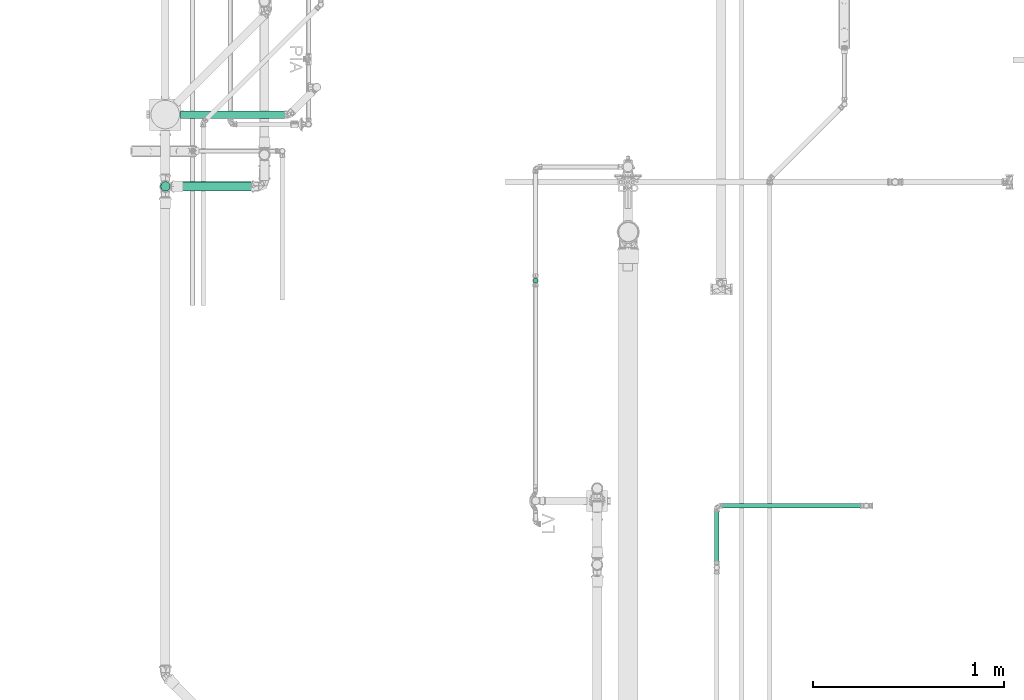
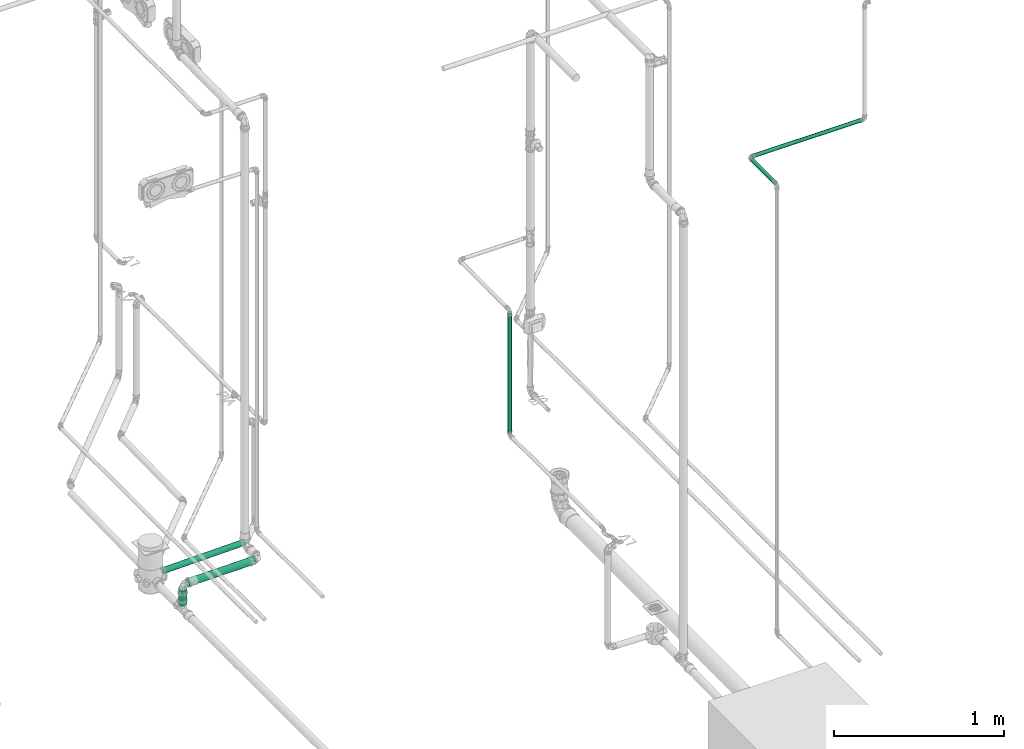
# One storey, part 44 of 589: 6 flow segments.
"""IFC2X3 building model written with IfcOpenShell, lengths in millimetres."""

from ifc_helpers import new_model, entity, si_unit, converted_unit, derived_unit, direction, frame, frame_2d, origin, origin_2d_with_axis, place, context, subcontext, project, spatial, circle, extrude, type_object, element, save


model = new_model("IFC2X3")

# Units and contexts
model_context = context("Model", 3, precision=0.01, world=origin(), true_north=direction((6.123031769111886e-17, 1.0)))
body_context = subcontext(model_context, "Body", "Model", "MODEL_VIEW")
ifc_project = project(units=[si_unit("LENGTHUNIT", "METRE", prefix="MILLI"), si_unit("AREAUNIT", "SQUARE_METRE"), si_unit("VOLUMEUNIT", "CUBIC_METRE"), converted_unit("PLANEANGLEUNIT", "DEGREE", entity("IfcRatioMeasure", 0.017453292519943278), si_unit("PLANEANGLEUNIT", "RADIAN"), dimensions=[0, 0, 0, 0, 0, 0, 0]), si_unit("MASSUNIT", "GRAM", prefix="KILO"), derived_unit("MASSDENSITYUNIT", [(si_unit("MASSUNIT", "GRAM", prefix="KILO"), 1), (si_unit("LENGTHUNIT", "METRE"), -3)]), derived_unit("IONCONCENTRATIONUNIT", [(si_unit("MASSUNIT", "GRAM", prefix="KILO"), 1), (si_unit("LENGTHUNIT", "METRE"), -3)]), derived_unit("MOMENTOFINERTIAUNIT", [(si_unit("LENGTHUNIT", "METRE"), 4)]), si_unit("TIMEUNIT", "SECOND"), si_unit("FREQUENCYUNIT", "HERTZ"), si_unit("THERMODYNAMICTEMPERATUREUNIT", "DEGREE_CELSIUS"), derived_unit("THERMALTRANSMITTANCEUNIT", [(si_unit("MASSUNIT", "GRAM", prefix="KILO"), 1), (si_unit("THERMODYNAMICTEMPERATUREUNIT", "KELVIN"), -1), (si_unit("TIMEUNIT", "SECOND"), -3)]), derived_unit("THERMALCONDUCTANCEUNIT", [(si_unit("MASSUNIT", "GRAM", prefix="KILO"), 1), (si_unit("THERMODYNAMICTEMPERATUREUNIT", "KELVIN"), -1), (si_unit("TIMEUNIT", "SECOND"), -3), (si_unit("LENGTHUNIT", "METRE"), 1)]), derived_unit("VOLUMETRICFLOWRATEUNIT", [(si_unit("LENGTHUNIT", "METRE"), 3), (si_unit("TIMEUNIT", "SECOND"), -1)]), derived_unit("MASSFLOWRATEUNIT", [(si_unit("MASSUNIT", "GRAM", prefix="KILO"), 1), (si_unit("TIMEUNIT", "SECOND"), -1)]), derived_unit("ROTATIONALFREQUENCYUNIT", [(si_unit("TIMEUNIT", "SECOND"), -1)]), si_unit("ELECTRICCURRENTUNIT", "AMPERE"), si_unit("ELECTRICVOLTAGEUNIT", "VOLT"), si_unit("POWERUNIT", "WATT"), si_unit("FORCEUNIT", "NEWTON", prefix="KILO"), si_unit("ILLUMINANCEUNIT", "LUX"), si_unit("LUMINOUSFLUXUNIT", "LUMEN"), si_unit("LUMINOUSINTENSITYUNIT", "CANDELA"), derived_unit("USERDEFINED", [(si_unit("MASSUNIT", "GRAM", prefix="KILO"), -1), (si_unit("LENGTHUNIT", "METRE"), -2), (si_unit("TIMEUNIT", "SECOND"), 3), (si_unit("LUMINOUSFLUXUNIT", "LUMEN"), 1)]), derived_unit("USERDEFINED", [(si_unit("MASSUNIT", "GRAM", prefix="KILO"), 1), (si_unit("TIMEUNIT", "SECOND"), -3), (si_unit("LENGTHUNIT", "METRE"), 3), (si_unit("ELECTRICCURRENTUNIT", "AMPERE"), -2)]), derived_unit("SOUNDPOWERUNIT", [(si_unit("MASSUNIT", "GRAM", prefix="KILO"), 1), (si_unit("TIMEUNIT", "SECOND"), -3), (si_unit("LENGTHUNIT", "METRE"), 2)]), derived_unit("SOUNDPRESSUREUNIT", [(si_unit("MASSUNIT", "GRAM", prefix="KILO"), 1), (si_unit("LENGTHUNIT", "METRE"), -1), (si_unit("TIMEUNIT", "SECOND"), -2)]), derived_unit("LINEARVELOCITYUNIT", [(si_unit("LENGTHUNIT", "METRE"), 1), (si_unit("TIMEUNIT", "SECOND"), -1)]), si_unit("PRESSUREUNIT", "PASCAL"), derived_unit("USERDEFINED", [(si_unit("MASSUNIT", "GRAM", prefix="KILO"), 1), (si_unit("LENGTHUNIT", "METRE"), -2), (si_unit("TIMEUNIT", "SECOND"), -2)]), derived_unit("LINEARFORCEUNIT", [(si_unit("MASSUNIT", "GRAM", prefix="KILO"), 1), (si_unit("TIMEUNIT", "SECOND"), -2)]), derived_unit("PLANARFORCEUNIT", [(si_unit("MASSUNIT", "GRAM", prefix="KILO"), 1), (si_unit("LENGTHUNIT", "METRE"), -1), (si_unit("TIMEUNIT", "SECOND"), -2)]), derived_unit("SPECIFICHEATCAPACITYUNIT", [(si_unit("THERMODYNAMICTEMPERATUREUNIT", "KELVIN"), -1), (si_unit("LENGTHUNIT", "METRE"), 2), (si_unit("TIMEUNIT", "SECOND"), -2)]), derived_unit("HEATINGVALUEUNIT", [(si_unit("LENGTHUNIT", "METRE"), 2), (si_unit("TIMEUNIT", "SECOND"), -2)]), derived_unit("VAPORPERMEABILITYUNIT", [(si_unit("LENGTHUNIT", "METRE"), -1), (si_unit("TIMEUNIT", "SECOND"), 1)]), derived_unit("DYNAMICVISCOSITYUNIT", [(si_unit("MASSUNIT", "GRAM", prefix="KILO"), 1), (si_unit("TIMEUNIT", "SECOND"), -1), (si_unit("LENGTHUNIT", "METRE"), -1)]), derived_unit("THERMALEXPANSIONCOEFFICIENTUNIT", [(si_unit("THERMODYNAMICTEMPERATUREUNIT", "KELVIN"), -1)]), derived_unit("MODULUSOFELASTICITYUNIT", [(si_unit("MASSUNIT", "GRAM", prefix="KILO"), 1), (si_unit("LENGTHUNIT", "METRE"), -1), (si_unit("TIMEUNIT", "SECOND"), -2)]), derived_unit("ISOTHERMALMOISTURECAPACITYUNIT", [(si_unit("LENGTHUNIT", "METRE"), 3), (si_unit("MASSUNIT", "GRAM", prefix="KILO"), -1)]), derived_unit("MOISTUREDIFFUSIVITYUNIT", [(si_unit("TIMEUNIT", "SECOND"), -1), (si_unit("LENGTHUNIT", "METRE"), 2)])], contexts=[model_context])

# Site, building, storey
site_placement = place(None, origin())
site = spatial("IfcSite", under=ifc_project, at=site_placement, Name="Default", CompositionType="ELEMENT")
building_placement = place(site_placement, origin())
building = spatial("IfcBuilding", under=site, at=building_placement, CompositionType="ELEMENT")
storey_placement = place(building_placement, frame((0.0, 0.0, 100.0)))
storey = spatial("IfcBuildingStorey", under=building, at=storey_placement, Name="TÉRREO", CompositionType="ELEMENT", Elevation=100.0)

# Flow segments
pipe_segment_type_1 = type_object("IfcPipeSegmentType", Name="Tipos de tubos:PVC Esgoto Série Normal", PredefinedType="NOTDEFINED")
flow_segment_1_placement = place(storey_placement, origin())
element("IfcFlowSegment", 1, at=flow_segment_1_placement, inside=storey, type_object=pipe_segment_type_1, Name="Tipos de tubos:PVC Esgoto Série Normal", ObjectType="Tipos de tubos:PVC Esgoto Série Normal", context=body_context, shape_type="SweptSolid", body=[
    extrude(circle(Radius=20.0, at=frame_2d((0.0, -3.383283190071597e-14), x_axis=(1.0, 0.0))), frame((-330.4258212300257, -7696.610182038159, -252.9347498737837), z_axis=(0.999800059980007, 0.0, 0.01999600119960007), x_axis=(0.0, -1.0, 0.0)), (0.0, 0.0, 1.0), 560.1345744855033),
])
flow_segment_2_placement = place(storey_placement, origin())
element("IfcFlowSegment", 2, at=flow_segment_2_placement, inside=storey, type_object=pipe_segment_type_1, Name="Tipos de tubos:PVC Esgoto Série Normal", ObjectType="Tipos de tubos:PVC Esgoto Série Normal", context=body_context, shape_type="SweptSolid", body=[
    extrude(circle(Radius=25.0, at=frame_2d((0.0, -2.3263556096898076e-14), x_axis=(1.0, 0.0))), frame((-378.1234355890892, -8073.302592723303, -93.54414026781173), z_axis=(0.9999498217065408, 0.0, 0.01001768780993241), x_axis=(0.0, -1.0, 0.0)), (0.0, 0.0, 1.0), 456.6242784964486),
])
flow_segment_3_placement = place(storey_placement, origin())
element("IfcFlowSegment", 3, at=flow_segment_3_placement, inside=storey, type_object=pipe_segment_type_1, Name="Tipos de tubos:PVC Esgoto Série Normal", ObjectType="Tipos de tubos:PVC Esgoto Série Normal", context=body_context, shape_type="SweptSolid", body=[
    extrude(circle(Radius=25.0, at=origin_2d_with_axis()), frame((-410.0094278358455, -8073.302592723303, -233.75405451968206), z_axis=(0.008280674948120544, 0.0, 0.9999657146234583), x_axis=(0.0, -1.0, 0.0)), (0.0, 0.0, 1.0), 109.17843581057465),
])
pipe_segment_type_2 = type_object("IfcPipeSegmentType", Name="Tipos de tubos:PVC Marrom Soldável", PredefinedType="NOTDEFINED")
flow_segment_4_placement = place(storey_placement, origin())
element("IfcFlowSegment", 4, at=flow_segment_4_placement, inside=storey, type_object=pipe_segment_type_2, Name="Tipos de tubos:PVC Marrom Soldável", ObjectType="Tipos de tubos:PVC Marrom Soldável", context=body_context, shape_type="SweptSolid", body=[
    extrude(circle(Radius=12.5, at=origin_2d_with_axis()), frame((1531.7423921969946, -8568.028664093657, 615.4000000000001), z_axis=(0.0, 0.0, 1.0), x_axis=(-1.0, 0.0, 0.0)), (0.0, 0.0, 1.0), 867.999999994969),
])
flow_segment_5_placement = place(storey_placement, origin())
element("IfcFlowSegment", 5, at=flow_segment_5_placement, inside=storey, type_object=pipe_segment_type_2, Name="Tipos de tubos:PVC Marrom Soldável", ObjectType="Tipos de tubos:PVC Marrom Soldável", context=body_context, shape_type="SweptSolid", body=[
    extrude(circle(Radius=12.5, at=frame_2d((-1.0828671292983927e-12, -5.414335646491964e-13), x_axis=(1.0, 0.0))), frame((2497.932173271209, -9748.296034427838, 2984.8999999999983), z_axis=(1.0, 0.0, 0.0), x_axis=(0.0, 1.0, 0.0)), (0.0, 0.0, 1.0), 753.6063385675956),
])
flow_segment_6_placement = place(storey_placement, origin())
element("IfcFlowSegment", 6, at=flow_segment_6_placement, inside=storey, type_object=pipe_segment_type_2, Name="Tipos de tubos:PVC Marrom Soldável", ObjectType="Tipos de tubos:PVC Marrom Soldável", context=body_context, shape_type="SweptSolid", body=[
    extrude(circle(Radius=12.5, at=frame_2d((0.0, -5.414335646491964e-13), x_axis=(1.0, 0.0))), frame((2482.5321732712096, -10057.131283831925, 2984.8999999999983), z_axis=(0.0, 1.0, 0.0), x_axis=(-1.0, 0.0, 0.0)), (0.0, 0.0, 1.0), 293.43524940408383),
])

save(model, "model.ifc")
